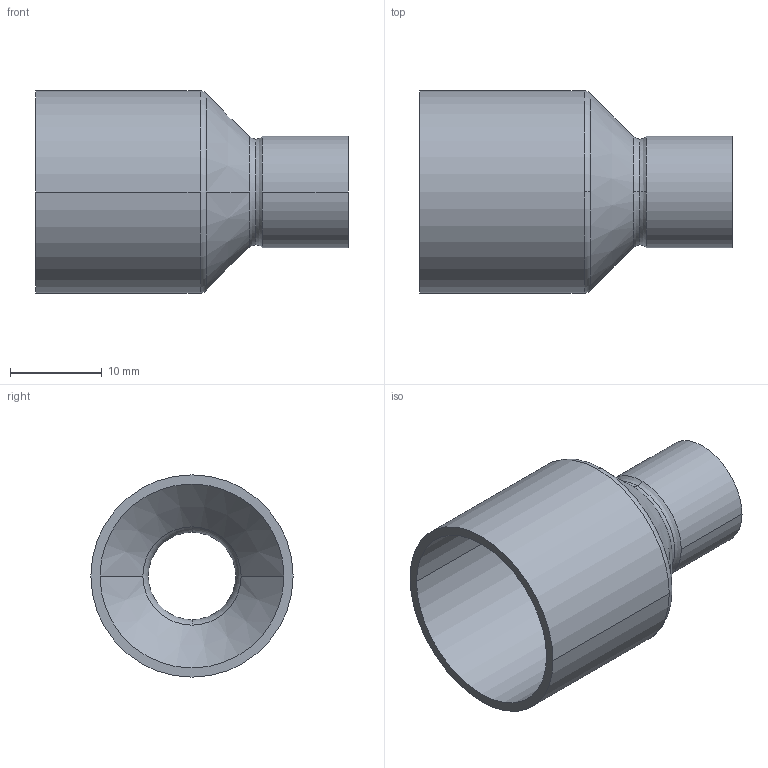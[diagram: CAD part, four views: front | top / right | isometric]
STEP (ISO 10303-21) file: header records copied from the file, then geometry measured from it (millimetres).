
FILE_DESCRIPTION((''),'2;1');
FILE_NAME('G:\Technics\CAD\Bauteile\Serie 15243\152432210.stp','2005-10-21T12:49:36',('boden'),(''),'Autodesk Inventor 8','Autodesk Inventor 8','');
FILE_SCHEMA(('AUTOMOTIVE_DESIGN { 1 0 10303 214 1 1 1 1 }'));
Length unit declared in the file: millimetre
Products named in the file (1): 152432210
Bounding box: 34 x 22 x 22 mm (x, y, z)
Volume: 1929.2 mm3; surface area: 3959.4 mm2
Topology: 1 solids, 1 shells, 24 faces, 60 edges, 38 vertices
Faces by surface type: cylinder 8, torus 6, bspline 4, cone 4, plane 2
Entity records: 931 total; most frequent: CARTESIAN_POINT 299, DIRECTION 150, ORIENTED_EDGE 120, AXIS2_PLACEMENT_3D 69, EDGE_CURVE 60, CIRCLE 48, VERTEX_POINT 38, EDGE_LOOP 26
